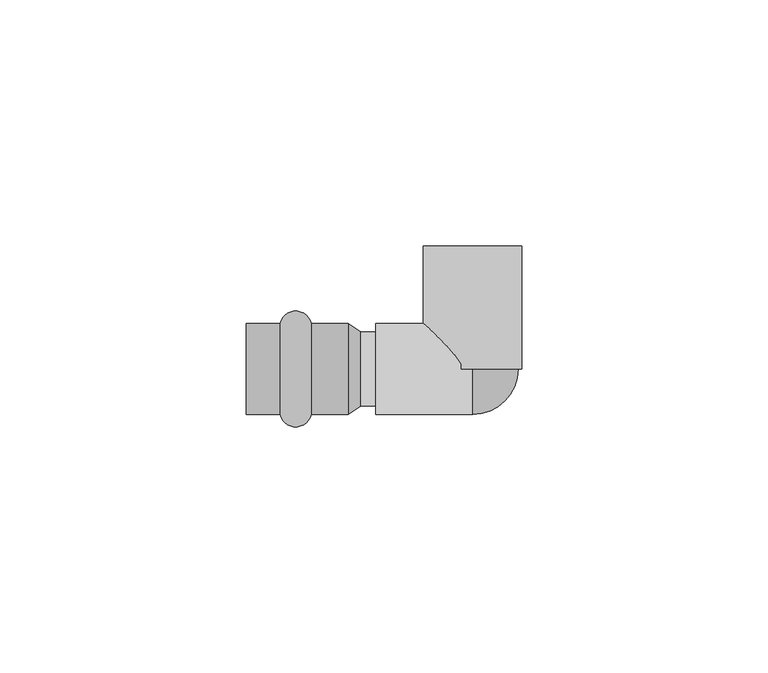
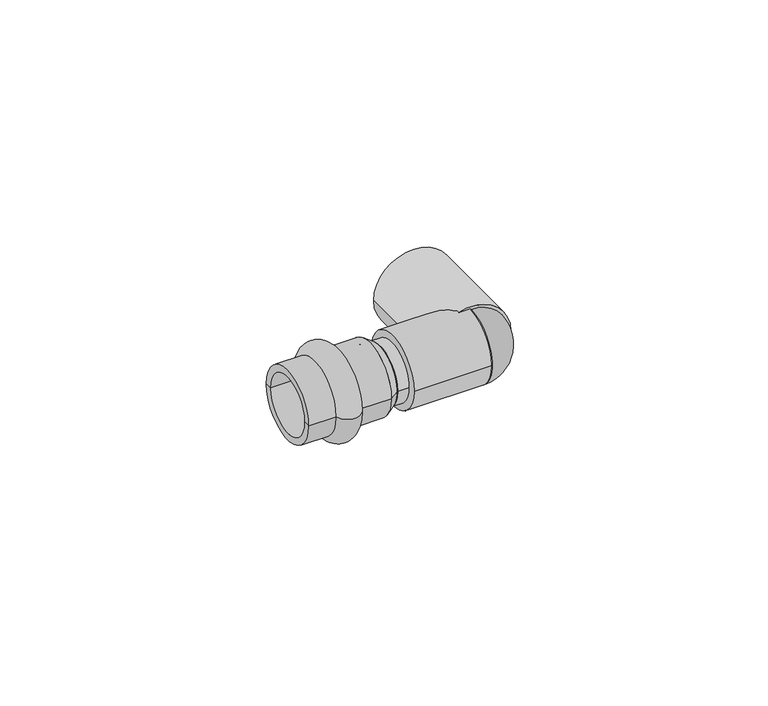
"""IFC4 building model written with IfcOpenShell, lengths in millimetres: pipe fitting geometry, VALTEC_VTi.952.I_Угольник с переходом на внутреннюю резьбу нержавеющая сталь : VTi.952.I."""

from ifc_helpers import new_model, si_unit, point, frame, origin, origin_2d, place, context, project, spatial, polyline, circle_curve, ellipse_curve, trimmed, segment, composite_curve, outline, extrude, source, transform, mapped, element, save
from ifc_brep_helpers import plane_surface, cylinder_surface, revolved_surface, advanced_brep


def pipe_fitting_9777c6e0(model_context):
    return source(origin(), model_context, "Body", "SolidModel", [
        advanced_brep(
        [(-39.1122777, -9.25, 0.0), (-39.1122777, 9.25, 0.0), (-32.7877223, 9.25, 0.0), (-32.7877223, -9.25, 0.0), (-46.0, -9.25, 0.0), (-46.0, 9.25, 0.0), (-46.0, -7.5, 0.0), (-46.0, 7.5, 0.0), (-25.3, -7.5, 0.0), (-25.3, 7.5, 0.0), (-25.3, -9.25, 0.0), (-25.3, 9.25, 0.0)],
        [
            (0, 1, circle_curve(frame((-39.1122777, 0.0, 0.0), z_axis=(1.0, 0.0, 0.0), x_axis=(0.0, 1.0, 0.0)), 9.25)),
            (1, 2, circle_curve(frame((-35.95, 8.5, 0.0), z_axis=(0.0, 0.0, -1.0), x_axis=(1.0, 0.0, 0.0)), 3.25)),
            (2, 3, circle_curve(frame((-32.7877223, 0.0, 0.0), z_axis=(-1.0, 0.0, 0.0), x_axis=(0.0, 1.0, 0.0)), 9.25)),
            (3, 0, circle_curve(frame((-35.95, -8.5, 0.0), z_axis=(0.0, 0.0, -1.0), x_axis=(1.0, 0.0, 0.0)), 3.25)),
            (1, 0, circle_curve(frame((-39.1122777, 0.0, 0.0), z_axis=(1.0, 0.0, 0.0), x_axis=(0.0, 1.0, 0.0)), 9.25)),
            (3, 2, circle_curve(frame((-32.7877223, 0.0, 0.0), z_axis=(-1.0, 0.0, 0.0), x_axis=(0.0, 1.0, 0.0)), 9.25)),
            (4, 5, circle_curve(frame((-46.0, 0.0, 0.0), z_axis=(1.0, 0.0, 0.0), x_axis=(0.0, 1.0, 0.0)), 9.25)),
            (5, 1),
            (0, 4),
            (5, 4, circle_curve(frame((-46.0, 0.0, 0.0), z_axis=(1.0, 0.0, 0.0), x_axis=(0.0, 1.0, 0.0)), 9.25)),
            (6, 7, circle_curve(frame((-46.0, 0.0, 0.0), z_axis=(1.0, 0.0, 0.0), x_axis=(0.0, 1.0, 0.0)), 7.5)),
            (7, 5),
            (4, 6),
            (7, 6, circle_curve(frame((-46.0, 0.0, 0.0), z_axis=(1.0, 0.0, 0.0), x_axis=(0.0, 1.0, 0.0)), 7.5)),
            (8, 9, circle_curve(frame((-25.3, 0.0, 0.0), z_axis=(1.0, 0.0, 0.0), x_axis=(0.0, 1.0, 0.0)), 7.5)),
            (9, 7),
            (6, 8),
            (9, 8, circle_curve(frame((-25.3, 0.0, 0.0), z_axis=(1.0, 0.0, 0.0), x_axis=(0.0, 1.0, 0.0)), 7.5)),
            (10, 11, circle_curve(frame((-25.3, 0.0, 0.0), z_axis=(1.0, 0.0, 0.0), x_axis=(0.0, 1.0, 0.0)), 9.25)),
            (11, 9),
            (8, 10),
            (11, 10, circle_curve(frame((-25.3, 0.0, 0.0), z_axis=(1.0, 0.0, 0.0), x_axis=(0.0, 1.0, 0.0)), 9.25)),
            (2, 11),
            (10, 3),
        ],
        [
            revolved_surface(trimmed(ellipse_curve(frame((-35.95, 8.5, 0.0), z_axis=(0.0, 0.0, 1.0), x_axis=(1.0, 0.0, 0.0)), 3.25, 3.25), [point((-32.7877223, 9.25, 0.0))], [point((-39.1122777, 9.25, 0.0))], True, "CARTESIAN"), (-49.5364426, 0.0, 0.0), (-1.0, 0.0, 0.0)),
            cylinder_surface(frame((-49.5364426, 0.0, 0.0), z_axis=(-1.0, 0.0, 0.0), x_axis=(0.0, 1.0, 0.0)), 9.25),
            plane_surface(frame((-46.0, 0.0, 0.0), z_axis=(-1.0, 0.0, 0.0), x_axis=(0.0, 1.0, 0.0))),
            revolved_surface(polyline([(-46.0, 7.5, 0.0), (-25.3, 7.5, 0.0)]), (-49.5364426, 0.0, 0.0), (-1.0, 0.0, 0.0)),
            plane_surface(frame((-25.3, 0.0, 0.0), z_axis=(1.0, 0.0, 0.0), x_axis=(0.0, 1.0, 0.0))),
        ],
        [
            (0, [[1, 2, 3, 4]]),
            (0, [[5, -4, 6, -2]]),
            (1, [[7, 8, -1, 9]]),
            (1, [[10, -9, -5, -8]]),
            (2, [[11, 12, -7, 13]]),
            (2, [[14, -13, -10, -12]]),
            (3, [[15, 16, -11, 17]]),
            (3, [[18, -17, -14, -16]]),
            (4, [[19, 20, -15, 21]]),
            (4, [[22, -21, -18, -20]]),
            (1, [[-3, 23, -19, 24]]),
            (1, [[-6, -24, -22, -23]]),
        ],
    ),
        advanced_brep(
        [(0.0, 0.0, -9.25), (0.0, 0.0, 9.25)],
        [
            (0, 1, circle_curve(frame((0.0, 0.0, 0.0), z_axis=(-1.0, 0.0, 0.0), x_axis=(0.0, -1.0, 0.0)), 9.25)),
            (1, 0),
            (1, 0, circle_curve(frame((0.0, 0.0, 0.0), z_axis=(0.0, 1.0, 0.0), x_axis=(1.0, 0.0, 0.0)), 9.25)),
        ],
        [
            plane_surface(frame((0.0, 0.0, 1.732782), z_axis=(-1.0, 0.0, 0.0), x_axis=(0.0, -1.0, 0.0))),
            plane_surface(frame((0.0, 0.0, 1.732782), z_axis=(0.0, 1.0, 0.0), x_axis=(1.0, 0.0, 0.0))),
            revolved_surface(trimmed(ellipse_curve(frame((0.0, 0.0, 0.0), z_axis=(-1.0, 0.0, 0.0), x_axis=(0.0, -1.0, 0.0)), 9.25, 9.25), [point((0.0, 0.0, -9.25))], [point((0.0, 0.0, 9.25))], True, "CARTESIAN"), (0.0, 0.0, 1.732782), (0.0, 0.0, 1.0)),
        ],
        [
            (0, [[1, 2]]),
            (1, [[3, -2]]),
            (2, [[-1, -3]]),
        ],
    ),
        extrude(outline(composite_curve([segment(trimmed(circle_curve(origin_2d(), 9.25), [point((-9.25, 0.0))], [point((9.25, 0.0))], False, "CARTESIAN"), True, "CONTINUOUS"), segment(trimmed(circle_curve(origin_2d(), 9.25), [point((9.25, 0.0))], [point((-9.25, 0.0))], False, "CARTESIAN"), True, "CONTINUOUS")], self_intersect=False)), frame((-19.6390217, 0.0, 0.0), z_axis=(1.0, 0.0, 0.0), x_axis=(0.0, 1.0, 0.0)), (0.0, 0.0, 1.0), 19.6390217),
        extrude(outline(composite_curve([segment(trimmed(circle_curve(origin_2d(), 10.0), [point((0.0, -10.0))], [point((0.0, 10.0))], False, "CARTESIAN"), True, "CONTINUOUS"), segment(trimmed(circle_curve(origin_2d(), 10.0), [point((0.0, 10.0))], [point((0.0, -10.0))], False, "CARTESIAN"), True, "CONTINUOUS")], self_intersect=False), holes=[composite_curve([segment(trimmed(circle_curve(origin_2d(), 7.5), [point((0.0, -7.5))], [point((0.0, 7.5))], True, "CARTESIAN"), True, "CONTINUOUS"), segment(trimmed(circle_curve(origin_2d(), 7.5), [point((0.0, 7.5))], [point((0.0, -7.5))], True, "CARTESIAN"), True, "CONTINUOUS")], self_intersect=False)]), frame((0.0, 0.0, 0.0), z_axis=(0.0, 1.0, 0.0), x_axis=(0.0, 0.0, 1.0)), (0.0, 0.0, 1.0), 25.0),
        extrude(outline(composite_curve([segment(trimmed(circle_curve(origin_2d(), 7.5), [point((-7.5, 0.0))], [point((7.5, 0.0))], False, "CARTESIAN"), True, "CONTINUOUS"), segment(trimmed(circle_curve(origin_2d(), 7.5), [point((7.5, 0.0))], [point((-7.5, 0.0))], False, "CARTESIAN"), True, "CONTINUOUS")], self_intersect=False)), frame((-22.77, 0.0, 0.0), z_axis=(1.0, 0.0, 0.0), x_axis=(0.0, 1.0, 0.0)), (0.0, 0.0, 1.0), 3.1309783),
        advanced_brep(
        [(-25.3, -9.25, 0.0), (-25.3, 9.25, 0.0), (-22.77, -7.5, 0.0), (-22.77, 7.5, 0.0)],
        [
            (0, 1, circle_curve(frame((-25.3, 0.0, 0.0), z_axis=(-1.0, 0.0, 0.0), x_axis=(0.0, -1.0, 0.0)), 9.25)),
            (1, 0, circle_curve(frame((-25.3, 0.0, 0.0), z_axis=(-1.0, 0.0, 0.0), x_axis=(0.0, 1.0, 0.0)), 9.25)),
            (2, 3, circle_curve(frame((-22.77, 0.0, 0.0), z_axis=(1.0, 0.0, 0.0), x_axis=(0.0, 1.0, 0.0)), 7.5)),
            (3, 2, circle_curve(frame((-22.77, 0.0, 0.0), z_axis=(1.0, 0.0, 0.0), x_axis=(0.0, -1.0, 0.0)), 7.5)),
            (2, 0),
            (1, 3),
        ],
        [
            plane_surface(frame((-25.3, 0.0, 0.0), z_axis=(-1.0, 0.0, 0.0), x_axis=(0.0, 0.0, -1.0))),
            plane_surface(frame((-22.77, 0.0, 0.0), z_axis=(1.0, 0.0, 0.0), x_axis=(0.0, 0.0, -1.0))),
            revolved_surface(polyline([(-22.77, -7.499999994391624, 0.0), (-25.3, -9.25, 0.0)]), (-11.9271429, 0.0, 0.0), (-1.0, 0.0, 0.0)),
            revolved_surface(polyline([(-22.77, 7.499999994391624, 0.0), (-25.3, 9.25, 0.0)]), (-11.9271429, 0.0, 0.0), (-1.0, 0.0, 0.0)),
        ],
        [
            (0, [[1, 2]]),
            (1, [[3, 4]]),
            (2, [[-3, 5, -2, 6]]),
            (3, [[-4, -6, -1, -5]]),
        ],
    ),
    ])


if __name__ == "__main__":
    model = new_model("IFC4")
    model_context = context("Model", 3, world=origin())
    ifc_project = project(units=[si_unit("LENGTHUNIT", "METRE", prefix="MILLI")], contexts=[model_context])
    site = spatial("IfcSite", under=ifc_project)
    building = spatial("IfcBuilding", under=site)
    placement = place(None, origin())
    pipe_fitting_shape = pipe_fitting_9777c6e0(model_context)
    element("IfcPipeFitting", 1, ObjectType="VALTEC_VTi.952.I_Угольник с переходом на внутреннюю резьбу нержавеющая сталь : VTi.952.I", at=placement, inside=building, context=model_context, shape_type="MappedRepresentation", body=[
        mapped(pipe_fitting_shape, transform((0.0, 0.0, 0.0), x_axis=(1.0, 0.0, 0.0), y_axis=(0.0, 1.0, 0.0), z_axis=(0.0, 0.0, 1.0))),
    ])
    save(model, "model.ifc")
